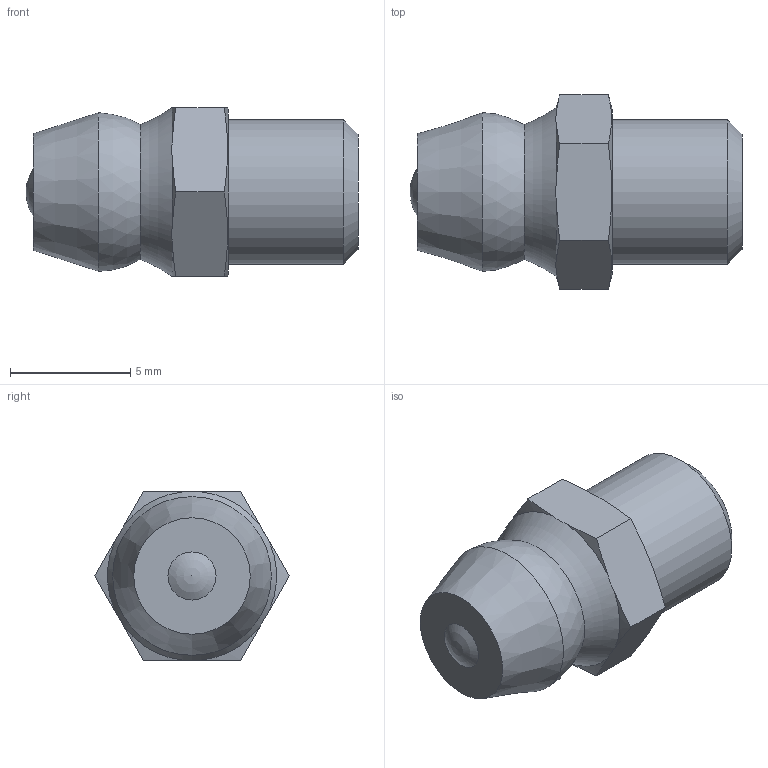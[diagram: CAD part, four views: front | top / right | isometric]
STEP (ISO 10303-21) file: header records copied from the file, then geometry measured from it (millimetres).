
FILE_DESCRIPTION(/* description */ ('STEP AP214'),/* implementation_level */ '2;1');
FILE_NAME(/* name */ 'hsr_ftht_A-M6F_grease_nipple_joint',/* time_stamp */ '2026-09-18T08:10:27+02:00',/* author */ ('License CC BY-ND 4.0'),/* organization */ ('CADENAS'),/* preprocessor_version */ 'ST-DEVELOPER v20',/* originating_system */ 'PARTsolutions',/* authorisation */ ' ');
FILE_SCHEMA (('AUTOMOTIVE_DESIGN {1 0 10303 214 3 1 1}'));
Length unit declared in the file: millimetre
Products named in the file (1): hsr_ftht_A-M6F_grease_nipple_joint
Bounding box: 13.81 x 8.08 x 7 mm (x, y, z)
Volume: 413.4 mm3; surface area: 330.4 mm2
Topology: 1 solids, 1 shells, 22 faces, 55 edges, 36 vertices
Faces by surface type: cone 9, plane 9, sphere 2, torus 1, cylinder 1
Full cylindrical faces by diameter (mm): 6 x1
Entity records: 642 total; most frequent: CARTESIAN_POINT 173, ORIENTED_EDGE 88, DIRECTION 80, EDGE_CURVE 44, AXIS2_PLACEMENT_3D 37, VERTEX_POINT 32, EDGE_LOOP 30, FACE_BOUND 30
